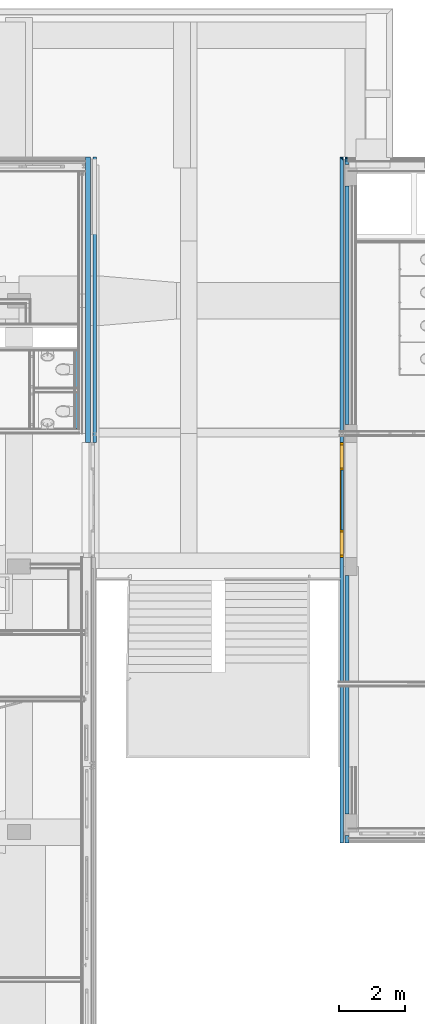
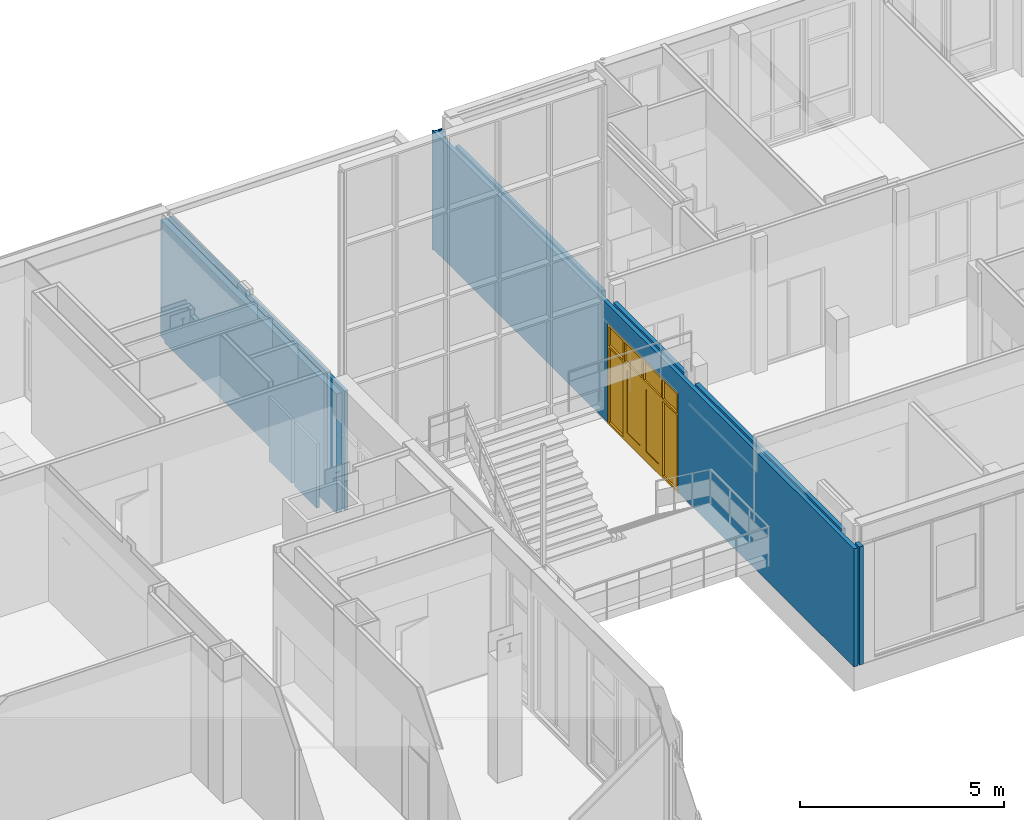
# One storey, part 49 of 94: 5 building element parts, 1 door, 1 opening, 3 elements without a shape of their own.
"""IFC2X3 building model written with IfcOpenShell, lengths in millimetres."""

from ifc_helpers import new_model, entity, si_unit, converted_unit, derived_unit, money_unit, direction, frame, origin_with_axes, place, context, subcontext, project, spatial, open_shell, faceted_brep, surface_model, material, type_object, element, fill, aggregate, save


model = new_model("IFC2X3")

# Units and contexts
model_context = context("Model", 3, precision=0.01, world=origin_with_axes(), true_north=direction((0.0, 1.0)))
body_context = subcontext(model_context, "Body", "Model", "MODEL_VIEW")
ifc_project = project(units=[si_unit("LENGTHUNIT", "METRE", prefix="MILLI"), si_unit("AREAUNIT", "SQUARE_METRE"), si_unit("VOLUMEUNIT", "CUBIC_METRE"), converted_unit("PLANEANGLEUNIT", "DEGREE", entity("IfcPlaneAngleMeasure", 0.0174532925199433), si_unit("PLANEANGLEUNIT", "RADIAN"), dimensions=[0, 0, 0, 0, 0, 0, 0]), money_unit("EUR"), converted_unit("TIMEUNIT", "Year", entity("IfcTimeMeasure", 31557600.0), si_unit("TIMEUNIT", "SECOND"), dimensions=[0, 0, 1, 0, 0, 0, 0]), si_unit("MASSUNIT", "GRAM", prefix="KILO"), si_unit("THERMODYNAMICTEMPERATUREUNIT", "DEGREE_CELSIUS"), si_unit("LUMINOUSINTENSITYUNIT", "LUMEN"), si_unit("ENERGYUNIT", "JOULE", prefix="MEGA"), derived_unit("THERMALCONDUCTANCEUNIT", [(si_unit("POWERUNIT", "WATT"), 1), (si_unit("LENGTHUNIT", "METRE"), -1), (si_unit("THERMODYNAMICTEMPERATUREUNIT", "KELVIN"), -1)]), derived_unit("SPECIFICHEATCAPACITYUNIT", [(si_unit("ENERGYUNIT", "JOULE"), 1), (si_unit("MASSUNIT", "GRAM", prefix="KILO"), -1), (si_unit("THERMODYNAMICTEMPERATUREUNIT", "KELVIN"), -1)]), derived_unit("MASSDENSITYUNIT", [(si_unit("MASSUNIT", "GRAM", prefix="KILO"), 1), (si_unit("VOLUMEUNIT", "CUBIC_METRE"), -1)])], contexts=[model_context])

# Site, building, storey
site_placement = place(None, origin_with_axes())
site = spatial("IfcSite", under=ifc_project, at=site_placement, Name="<site naam>", CompositionType="ELEMENT")
building_placement = place(site_placement, origin_with_axes())
building = spatial("IfcBuilding", under=site, at=building_placement, Name="<Naam gebouw>", CompositionType="ELEMENT")
storey_placement = place(building_placement, frame((0.0, 0.0, 4250.0), z_axis=(0.0, 0.0, 1.0), x_axis=(1.0, 0.0, 0.0)))
storey = spatial("IfcBuildingStorey", under=building, at=storey_placement, Name="01 1e verdieping", CompositionType="ELEMENT", Elevation=4250.0)

# Door
door_style = type_object("IfcDoorStyle", Name="D2 bl zl2 27", ConstructionType="NOTDEFINED", OperationType="USERDEFINED", ParameterTakesPrecedence=False, Sizeable=False)
wall_2_placement = place(storey_placement, frame((11665.00000000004, 20324.99999758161, 0.0), z_axis=(0.0, 0.0, 1.0), x_axis=(0.0, -1.0, 0.0)))
opening_placement = place(wall_2_placement, frame((10324.99999758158, 0.0, 0.0), z_axis=(0.0, 0.0, 1.0), x_axis=(1.0, 0.0, 0.0)))
door_placement = place(opening_placement, frame((1725.0, 0.0, 0.0), z_axis=(0.0, 0.0, 1.0), x_axis=(-1.0, 0.0, 0.0)))
door = element("IfcDoor", 1, at=door_placement, inside=storey, type_object=door_style, Name="21_BI-D-06_305", ObjectType="DOOR", OverallHeight=3000.0, OverallWidth=3450.0, context=body_context, shape_type="SurfaceModel", body=[
    faceted_brep([(3449.999999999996, 0.0, 0.0), (3449.999999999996, -113.9999999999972, 0.0), (3382.999999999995, -113.9999999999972, 0.0), (3382.999999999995, 0.0, 0.0), (3449.999999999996, 0.0, 2933.0), (3449.999999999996, -113.9999999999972, 2933.0), (3382.999999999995, -113.9999999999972, 2933.0), (3382.999999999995, -113.9999999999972, 2367.0), (3382.999999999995, -113.9999999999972, 2300.0), (3382.999999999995, -113.9999999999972, 67.00000000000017), (3382.999999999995, 0.0, 67.00000000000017), (3382.999999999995, 0.0, 2300.0), (3382.999999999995, 0.0, 2367.0), (3382.999999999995, 0.0, 2933.0)], [[[0, 1, 2, 3]], [[4, 5, 1, 0]], [[1, 5, 6, 7, 8, 9, 2]], [[3, 2, 9, 10]], [[0, 3, 10, 11, 12, 13, 4]], [[13, 6, 5, 4]], [[12, 7, 6, 13]], [[11, 8, 7, 12]], [[10, 9, 8, 11]]]),
    faceted_brep([(2624.999999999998, -39.99999999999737, 2317.0), (2624.999999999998, -39.99999999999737, 2300.0), (2624.999999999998, -113.9999999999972, 2300.0), (2624.999999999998, -113.9999999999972, 2367.0), (2624.999999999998, 0.0, 2367.0), (2624.999999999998, 0.0, 2317.0), (2641.999999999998, -39.99999999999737, 2317.0), (2641.999999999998, -39.99999999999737, 0.0), (2624.999999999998, -39.99999999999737, 0.0), (2624.999999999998, -113.9999999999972, 0.0), (2691.999999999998, -113.9999999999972, 0.0), (2691.999999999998, -113.9999999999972, 67.00000000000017), (2691.999999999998, -113.9999999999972, 2300.0), (2691.999999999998, -113.9999999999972, 2367.0), (2691.999999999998, -113.9999999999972, 2933.0), (2624.999999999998, -113.9999999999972, 2933.0), (2624.999999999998, 0.0, 2933.0), (2641.999999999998, 0.0, 2317.0), (2691.999999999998, 0.0, 2933.0), (2691.999999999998, 0.0, 2367.0), (2691.999999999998, 0.0, 2300.0), (2691.999999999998, 0.0, 67.00000000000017), (2691.999999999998, 0.0, 0.0), (2641.999999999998, 0.0, 0.0)], [[[0, 1, 2, 3, 4, 5]], [[0, 6, 7, 8, 1]], [[8, 9, 2, 1]], [[2, 9, 10, 11, 12, 13, 14, 15, 3]], [[16, 4, 3, 15]], [[17, 5, 4, 16, 18, 19, 20, 21, 22, 23]], [[5, 17, 6, 0]], [[23, 7, 6, 17]], [[7, 23, 22, 10, 9, 8]], [[22, 21, 11, 10]], [[21, 20, 12, 11]], [[20, 19, 13, 12]], [[19, 18, 14, 13]], [[18, 16, 15, 14]]]),
    faceted_brep([(3382.999999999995, 0.0, 67.00000000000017), (3382.999999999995, -113.9999999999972, 67.00000000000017), (3382.999999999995, -113.9999999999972, 0.0), (3382.999999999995, 0.0, 0.0), (2691.999999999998, 0.0, 67.00000000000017), (2691.999999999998, -113.9999999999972, 67.00000000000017), (2691.999999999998, -113.9999999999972, 0.0), (2691.999999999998, 0.0, 0.0)], [[[0, 1, 2, 3]], [[4, 5, 1, 0]], [[1, 5, 6, 2]], [[3, 2, 6, 7]], [[0, 3, 7, 4]], [[7, 6, 5, 4]]]),
    faceted_brep([(0.0, 0.0, 0.0), (0.0, -113.9999999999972, 0.0), (0.0, -113.9999999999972, 2933.0), (0.0, 0.0, 2933.0), (67.00000000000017, 0.0, 0.0), (67.00000000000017, -113.9999999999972, 0.0), (67.00000000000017, -113.9999999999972, 67.00000000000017), (67.00000000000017, -113.9999999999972, 2300.0), (67.00000000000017, -113.9999999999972, 2367.0), (67.00000000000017, -113.9999999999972, 2933.0), (67.00000000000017, 0.0, 2933.0), (67.00000000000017, 0.0, 2367.0), (67.00000000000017, 0.0, 2300.0), (67.00000000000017, 0.0, 67.00000000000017)], [[[0, 1, 2, 3]], [[4, 5, 1, 0]], [[1, 5, 6, 7, 8, 9, 2]], [[3, 2, 9, 10]], [[0, 3, 10, 11, 12, 13, 4]], [[13, 6, 5, 4]], [[12, 7, 6, 13]], [[11, 8, 7, 12]], [[10, 9, 8, 11]]]),
    faceted_brep([(807.9999999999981, 0.0, 2317.0), (807.9999999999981, 0.0, 0.0), (757.9999999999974, 0.0, 0.0), (757.9999999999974, 0.0, 67.00000000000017), (757.9999999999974, 0.0, 2300.0), (757.9999999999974, 0.0, 2367.0), (757.9999999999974, 0.0, 2933.0), (824.9999999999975, 0.0, 2933.0), (824.9999999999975, 0.0, 2367.0), (824.9999999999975, 0.0, 2317.0), (807.9999999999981, -39.99999999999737, 2317.0), (807.9999999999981, -39.99999999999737, 0.0), (824.9999999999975, -39.99999999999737, 0.0), (824.9999999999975, -113.9999999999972, 0.0), (757.9999999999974, -113.9999999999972, 0.0), (757.9999999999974, -113.9999999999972, 67.00000000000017), (757.9999999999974, -113.9999999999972, 2300.0), (757.9999999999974, -113.9999999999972, 2367.0), (757.9999999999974, -113.999999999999, 2933.0), (824.9999999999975, -113.999999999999, 2933.0), (824.9999999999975, -113.9999999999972, 2367.0), (824.9999999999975, -39.99999999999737, 2317.0), (824.9999999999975, -113.9999999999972, 2300.0), (824.9999999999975, -39.99999999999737, 2300.0)], [[[0, 1, 2, 3, 4, 5, 6, 7, 8, 9]], [[0, 10, 11, 1]], [[11, 12, 13, 14, 2, 1]], [[3, 2, 14, 15]], [[4, 3, 15, 16]], [[5, 4, 16, 17]], [[6, 5, 17, 18]], [[7, 6, 18, 19]], [[8, 7, 19, 20]], [[21, 9, 8, 20, 22, 23]], [[9, 21, 10, 0]], [[11, 10, 21, 23, 12]], [[23, 22, 13, 12]], [[15, 14, 13, 22, 20, 19, 18, 17, 16]]]),
    faceted_brep([(757.9999999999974, 0.0, 67.00000000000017), (757.9999999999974, -113.9999999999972, 67.00000000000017), (757.9999999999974, -113.9999999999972, 0.0), (757.9999999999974, 0.0, 0.0), (67.00000000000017, 0.0, 67.00000000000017), (67.00000000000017, -113.9999999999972, 67.00000000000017), (67.00000000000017, -113.9999999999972, 0.0), (67.00000000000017, 0.0, 0.0)], [[[0, 1, 2, 3]], [[4, 5, 1, 0]], [[1, 5, 6, 2]], [[3, 2, 6, 7]], [[0, 3, 7, 4]], [[7, 6, 5, 4]]]),
    faceted_brep([(3449.999999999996, 0.0, 3000.0), (3449.999999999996, -113.9999999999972, 3000.0), (3449.999999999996, -113.9999999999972, 2933.0), (3449.999999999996, 0.0, 2933.0), (0.0, 0.0, 3000.0), (0.0, -113.9999999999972, 3000.0), (0.0, -113.9999999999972, 2933.0), (67.00000000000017, -113.9999999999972, 2933.0), (757.9999999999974, -113.999999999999, 2933.0), (824.9999999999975, -113.999999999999, 2933.0), (2624.999999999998, -113.9999999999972, 2933.0), (2691.999999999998, -113.9999999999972, 2933.0), (3382.999999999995, -113.9999999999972, 2933.0), (3382.999999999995, 0.0, 2933.0), (2691.999999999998, 0.0, 2933.0), (2624.999999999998, 0.0, 2933.0), (824.9999999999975, 0.0, 2933.0), (757.9999999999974, 0.0, 2933.0), (67.00000000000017, 0.0, 2933.0), (0.0, 0.0, 2933.0)], [[[0, 1, 2, 3]], [[4, 5, 1, 0]], [[1, 5, 6, 7, 8, 9, 10, 11, 12, 2]], [[3, 2, 12, 13]], [[0, 3, 13, 14, 15, 16, 17, 18, 19, 4]], [[19, 6, 5, 4]], [[18, 7, 6, 19]], [[17, 8, 7, 18]], [[16, 9, 8, 17]], [[15, 10, 9, 16]], [[14, 11, 10, 15]], [[13, 12, 11, 14]]]),
    faceted_brep([(3382.999999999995, 0.0, 2300.0), (3382.999999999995, -113.9999999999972, 2300.0), (2691.999999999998, -113.9999999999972, 2300.0), (2691.999999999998, 0.0, 2300.0), (3382.999999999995, 0.0, 2367.0), (3382.999999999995, -113.9999999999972, 2367.0), (2691.999999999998, -113.9999999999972, 2367.0), (2691.999999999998, 0.0, 2367.0)], [[[0, 1, 2, 3]], [[4, 5, 1, 0]], [[1, 5, 6, 2]], [[3, 2, 6, 7]], [[0, 3, 7, 4]], [[7, 6, 5, 4]]]),
    faceted_brep([(67.00000000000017, 0.0, 2367.0), (67.00000000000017, -113.9999999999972, 2367.0), (757.9999999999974, -113.9999999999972, 2367.0), (757.9999999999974, 0.0, 2367.0), (67.00000000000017, 0.0, 2300.0), (67.00000000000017, -113.9999999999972, 2300.0), (757.9999999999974, -113.9999999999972, 2300.0), (757.9999999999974, 0.0, 2300.0)], [[[0, 1, 2, 3]], [[4, 5, 1, 0]], [[1, 5, 6, 2]], [[3, 2, 6, 7]], [[0, 3, 7, 4]], [[7, 6, 5, 4]]]),
    faceted_brep([(824.9999999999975, -39.99999999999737, 2317.0), (824.9999999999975, -39.99999999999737, 2300.0), (824.9999999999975, -113.9999999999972, 2300.0), (824.9999999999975, -113.9999999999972, 2367.0), (824.9999999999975, 0.0, 2367.0), (824.9999999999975, 0.0, 2317.0), (2624.999999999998, -39.99999999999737, 2317.0), (2624.999999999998, -39.99999999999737, 2300.0), (2624.999999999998, -113.9999999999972, 2300.0), (2624.999999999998, -113.9999999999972, 2367.0), (2624.999999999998, 0.0, 2367.0), (2624.999999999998, 0.0, 2317.0)], [[[0, 1, 2, 3, 4, 5]], [[0, 6, 7, 1]], [[7, 8, 2, 1]], [[8, 9, 3, 2]], [[10, 4, 3, 9]], [[5, 4, 10, 11]], [[5, 11, 6, 0]], [[6, 11, 10, 9, 8, 7]]]),
    faceted_brep([(807.9999999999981, 0.0, 299.9999999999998), (957.9999999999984, 0.0, 299.9999999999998), (957.9999999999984, -39.99999999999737, 299.9999999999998), (807.9999999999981, -39.99999999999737, 299.9999999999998), (807.9999999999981, 0.0, 2167.0), (957.9999999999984, 0.0, 2167.0), (957.9999999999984, -39.99999999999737, 2167.0), (807.9999999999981, -39.99999999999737, 2167.0)], [[[0, 1, 2, 3]], [[0, 4, 5, 1]], [[1, 5, 6, 2]], [[3, 2, 6, 7]], [[4, 0, 3, 7]], [[5, 4, 7, 6]]]),
    faceted_brep([(1724.999999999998, 0.0, 299.9999999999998), (1724.999999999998, 0.0, 2167.0), (1724.999999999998, -39.99999999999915, 2167.0), (1724.999999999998, -39.99999999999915, 299.9999999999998), (1574.999999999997, 0.0, 299.9999999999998), (1574.999999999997, 0.0, 2167.0), (1574.999999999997, -39.99999999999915, 2167.0), (1574.999999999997, -39.99999999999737, 299.9999999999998)], [[[0, 1, 2, 3]], [[0, 4, 5, 1]], [[1, 5, 6, 2]], [[3, 2, 6, 7]], [[4, 0, 3, 7]], [[5, 4, 7, 6]]]),
    faceted_brep([(807.9999999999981, 0.0, 0.0), (1724.999999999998, 0.0, 0.0), (1724.999999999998, -39.99999999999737, 0.0), (807.9999999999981, -39.99999999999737, 0.0), (807.9999999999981, 0.0, 299.9999999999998), (957.9999999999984, 0.0, 299.9999999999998), (1574.999999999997, 0.0, 299.9999999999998), (1724.999999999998, 0.0, 299.9999999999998), (1724.999999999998, -39.99999999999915, 299.9999999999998), (1574.999999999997, -39.99999999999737, 299.9999999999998), (957.9999999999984, -39.99999999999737, 299.9999999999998), (807.9999999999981, -39.99999999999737, 299.9999999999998)], [[[0, 1, 2, 3]], [[0, 4, 5, 6, 7, 1]], [[1, 7, 8, 2]], [[3, 2, 8, 9, 10, 11]], [[4, 0, 3, 11]], [[5, 4, 11, 10]], [[6, 5, 10, 9]], [[7, 6, 9, 8]]]),
    faceted_brep([(807.9999999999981, 0.0, 2317.0), (807.9999999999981, 0.0, 2167.0), (807.9999999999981, -39.99999999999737, 2167.0), (807.9999999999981, -39.99999999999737, 2317.0), (1724.999999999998, 0.0, 2317.0), (1724.999999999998, 0.0, 2167.0), (1574.999999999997, 0.0, 2167.0), (957.9999999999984, 0.0, 2167.0), (957.9999999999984, -39.99999999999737, 2167.0), (1574.999999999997, -39.99999999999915, 2167.0), (1724.999999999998, -39.99999999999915, 2167.0), (1724.999999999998, -39.99999999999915, 2317.0)], [[[0, 1, 2, 3]], [[0, 4, 5, 6, 7, 1]], [[1, 7, 8, 2]], [[3, 2, 8, 9, 10, 11]], [[4, 0, 3, 11]], [[5, 4, 11, 10]], [[6, 5, 10, 9]], [[7, 6, 9, 8]]]),
    surface_model("IfcShellBasedSurfaceModel", [(957.9999999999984, -13.99999999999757, 299.9999999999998), (957.9999999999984, -13.99999999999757, 2167.0), (1574.999999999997, -13.99999999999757, 2167.0), (1574.999999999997, -13.99999999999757, 299.9999999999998)], [open_shell([[[0, 1, 2, 3]]])]),
    surface_model("IfcShellBasedSurfaceModel", [(957.9999999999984, -25.99999999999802, 299.9999999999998), (1574.999999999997, -25.99999999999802, 299.9999999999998), (1574.999999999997, -25.99999999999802, 2167.0), (957.9999999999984, -25.99999999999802, 2167.0)], [open_shell([[[0, 1, 2, 3]]])]),
    faceted_brep([(2641.999999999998, 0.0, 299.9999999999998), (2641.999999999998, -39.99999999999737, 299.9999999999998), (2491.999999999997, -39.99999999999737, 299.9999999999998), (2491.999999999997, 0.0, 299.9999999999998), (2641.999999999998, 0.0, 2167.0), (2641.999999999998, -39.99999999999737, 2167.0), (2491.999999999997, -39.99999999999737, 2167.0), (2491.999999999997, 0.0, 2167.0)], [[[0, 1, 2, 3]], [[4, 5, 1, 0]], [[1, 5, 6, 2]], [[3, 2, 6, 7]], [[0, 3, 7, 4]], [[7, 6, 5, 4]]]),
    faceted_brep([(1724.999999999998, 0.0, 299.9999999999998), (1724.999999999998, -39.99999999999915, 299.9999999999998), (1724.999999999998, -39.99999999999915, 2167.0), (1724.999999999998, 0.0, 2167.0), (1874.999999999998, 0.0, 299.9999999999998), (1874.999999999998, -39.99999999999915, 299.9999999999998), (1874.999999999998, -39.99999999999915, 2167.0), (1874.999999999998, 0.0, 2167.0)], [[[0, 1, 2, 3]], [[4, 5, 1, 0]], [[1, 5, 6, 2]], [[3, 2, 6, 7]], [[0, 3, 7, 4]], [[7, 6, 5, 4]]]),
    faceted_brep([(2641.999999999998, 0.0, 0.0), (2641.999999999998, -39.99999999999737, 0.0), (1724.999999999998, -39.99999999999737, 0.0), (1724.999999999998, 0.0, 0.0), (2641.999999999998, 0.0, 299.9999999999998), (2641.999999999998, -39.99999999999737, 299.9999999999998), (2491.999999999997, -39.99999999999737, 299.9999999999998), (1874.999999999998, -39.99999999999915, 299.9999999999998), (1724.999999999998, -39.99999999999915, 299.9999999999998), (1724.999999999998, 0.0, 299.9999999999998), (1874.999999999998, 0.0, 299.9999999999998), (2491.999999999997, 0.0, 299.9999999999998)], [[[0, 1, 2, 3]], [[4, 5, 1, 0]], [[1, 5, 6, 7, 8, 2]], [[3, 2, 8, 9]], [[0, 3, 9, 10, 11, 4]], [[11, 6, 5, 4]], [[10, 7, 6, 11]], [[9, 8, 7, 10]]]),
    faceted_brep([(2641.999999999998, 0.0, 2317.0), (2641.999999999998, -39.99999999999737, 2317.0), (2641.999999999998, -39.99999999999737, 2167.0), (2641.999999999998, 0.0, 2167.0), (1724.999999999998, 0.0, 2317.0), (1724.999999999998, -39.99999999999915, 2317.0), (1724.999999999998, -39.99999999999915, 2167.0), (1874.999999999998, -39.99999999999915, 2167.0), (2491.999999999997, -39.99999999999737, 2167.0), (2491.999999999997, 0.0, 2167.0), (1874.999999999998, 0.0, 2167.0), (1724.999999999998, 0.0, 2167.0)], [[[0, 1, 2, 3]], [[4, 5, 1, 0]], [[1, 5, 6, 7, 8, 2]], [[3, 2, 8, 9]], [[0, 3, 9, 10, 11, 4]], [[11, 6, 5, 4]], [[10, 7, 6, 11]], [[9, 8, 7, 10]]]),
    surface_model("IfcShellBasedSurfaceModel", [(2491.999999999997, -13.99999999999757, 299.9999999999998), (1874.999999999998, -13.99999999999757, 299.9999999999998), (1874.999999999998, -13.99999999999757, 2167.0), (2491.999999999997, -13.99999999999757, 2167.0)], [open_shell([[[0, 1, 2, 3]]])]),
    surface_model("IfcShellBasedSurfaceModel", [(2491.999999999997, -25.99999999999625, 299.9999999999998), (2491.999999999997, -25.99999999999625, 2167.0), (1874.999999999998, -25.99999999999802, 2167.0), (1874.999999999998, -25.99999999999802, 299.9999999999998)], [open_shell([[[0, 1, 2, 3]]])]),
    surface_model("IfcShellBasedSurfaceModel", [(3382.999999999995, -59.99999999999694, 2367.0), (3382.999999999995, -59.99999999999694, 2933.0), (2691.999999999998, -59.99999999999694, 2933.0), (2691.999999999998, -59.99999999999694, 2367.0)], [open_shell([[[0, 1, 2, 3]]])]),
    surface_model("IfcShellBasedSurfaceModel", [(3382.999999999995, -47.99999999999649, 2367.0), (2691.999999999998, -47.99999999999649, 2367.0), (2691.999999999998, -47.99999999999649, 2933.0), (3382.999999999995, -47.99999999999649, 2933.0)], [open_shell([[[0, 1, 2, 3]]])]),
    surface_model("IfcShellBasedSurfaceModel", [(1758.499999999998, -59.99999999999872, 2367.0), (2624.999999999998, -59.99999999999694, 2367.0), (2624.999999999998, -59.99999999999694, 2933.0), (1758.499999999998, -59.99999999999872, 2933.0)], [open_shell([[[0, 1, 2, 3]]])]),
    surface_model("IfcShellBasedSurfaceModel", [(1758.499999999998, -47.99999999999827, 2367.0), (1758.499999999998, -47.99999999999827, 2933.0), (2624.999999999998, -47.99999999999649, 2933.0), (2624.999999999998, -47.99999999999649, 2367.0)], [open_shell([[[0, 1, 2, 3]]])]),
    surface_model("IfcShellBasedSurfaceModel", [(824.9999999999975, -59.99999999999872, 2367.0), (1691.499999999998, -59.99999999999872, 2367.0), (1691.499999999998, -59.99999999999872, 2933.0), (824.9999999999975, -59.99999999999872, 2933.0)], [open_shell([[[0, 1, 2, 3]]])]),
    surface_model("IfcShellBasedSurfaceModel", [(824.9999999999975, -47.99999999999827, 2367.0), (824.9999999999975, -47.99999999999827, 2933.0), (1691.499999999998, -47.99999999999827, 2933.0), (1691.499999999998, -47.99999999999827, 2367.0)], [open_shell([[[0, 1, 2, 3]]])]),
    faceted_brep([(1758.499999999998, -113.999999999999, 2367.0), (1691.499999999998, -113.999999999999, 2367.0), (1691.499999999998, 0.0, 2367.0), (1758.499999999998, 0.0, 2367.0), (1758.499999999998, -113.999999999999, 2933.0), (1691.499999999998, -113.999999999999, 2933.0), (1691.499999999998, 0.0, 2933.0), (1758.499999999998, 0.0, 2933.0)], [[[0, 1, 2, 3]], [[0, 4, 5, 1]], [[1, 5, 6, 2]], [[3, 2, 6, 7]], [[4, 0, 3, 7]], [[5, 4, 7, 6]]]),
    surface_model("IfcShellBasedSurfaceModel", [(757.9999999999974, -59.99999999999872, 2367.0), (757.9999999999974, -59.99999999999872, 2933.0), (67.00000000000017, -59.99999999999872, 2933.0), (67.00000000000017, -59.99999999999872, 2367.0)], [open_shell([[[0, 1, 2, 3]]])]),
    surface_model("IfcShellBasedSurfaceModel", [(757.9999999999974, -47.99999999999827, 2367.0), (67.00000000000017, -47.99999999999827, 2367.0), (67.00000000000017, -47.99999999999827, 2933.0), (757.9999999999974, -47.99999999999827, 2933.0)], [open_shell([[[0, 1, 2, 3]]])]),
    surface_model("IfcShellBasedSurfaceModel", [(3382.999999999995, -59.99999999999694, 67.00000000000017), (3382.999999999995, -59.99999999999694, 2300.000000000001), (2691.999999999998, -59.99999999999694, 2300.000000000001), (2691.999999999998, -59.99999999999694, 67.00000000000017)], [open_shell([[[0, 1, 2, 3]]])]),
    surface_model("IfcShellBasedSurfaceModel", [(3382.999999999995, -47.99999999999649, 67.00000000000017), (2691.999999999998, -47.99999999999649, 67.00000000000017), (2691.999999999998, -47.99999999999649, 2300.000000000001), (3382.999999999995, -47.99999999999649, 2300.000000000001)], [open_shell([[[0, 1, 2, 3]]])]),
    surface_model("IfcShellBasedSurfaceModel", [(757.9999999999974, -59.99999999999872, 67.00000000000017), (757.9999999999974, -59.99999999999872, 2300.000000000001), (67.00000000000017, -59.99999999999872, 2300.000000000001), (67.00000000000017, -59.99999999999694, 67.00000000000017)], [open_shell([[[0, 1, 2, 3]]])]),
    surface_model("IfcShellBasedSurfaceModel", [(757.9999999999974, -47.99999999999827, 67.00000000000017), (67.00000000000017, -47.99999999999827, 67.00000000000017), (67.00000000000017, -47.99999999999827, 2300.000000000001), (757.9999999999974, -47.99999999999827, 2300.000000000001)], [open_shell([[[0, 1, 2, 3]]])]),
])

# Wall, building element parts
wall_type_1 = type_object("IfcWallType", Name="metselwerk-lucht-kalkzandsteen 335 335", PredefinedType="NOTDEFINED")
wall_1_placement = place(storey_placement, frame((4335.04446815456, 20324.99999757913, 0.0), z_axis=(0.0, 0.0, 1.0), x_axis=(0.0, -1.0, 0.0)))
wall_1 = element("IfcWall", 2, at=wall_1_placement, inside=storey, type_object=wall_type_1, Name="21_Binnenwand_metselwerk-lucht-kalkzandsteen")
ifc_material_1 = material(Name="kalkzandsteen C")
building_element_part_1_placement = place(wall_1_placement, origin_with_axes())
building_element_part_1 = element("IfcBuildingElementPart", 3, at=building_element_part_1_placement, material=ifc_material_1, Name="kalkzandsteen C", context=body_context, shape_type="Brep", body=[
    faceted_brep([(0.0, -204.119711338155, 70.00015497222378), (0.0, -334.9999999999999, 70.00015497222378), (0.0, -334.9999999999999, 3560.000003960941), (0.0, -174.9999999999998, 3560.000003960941), (0.0, -174.9999999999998, 0.0), (0.0, -204.119711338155, 0.0), (189.9999975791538, -204.119711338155, 70.00015497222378), (189.9999975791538, -334.9999999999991, 70.00015497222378), (189.9999975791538, -334.9999999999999, 0.0), (8599.999997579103, -334.9999999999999, 0.0), (8599.999997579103, -334.9999999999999, 3560.000003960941), (8599.999997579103, -174.9999999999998, 3560.000003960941), (8599.999997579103, -174.9999999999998, 0.0), (189.9999975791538, -204.119711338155, 0.0)], [[[0, 1, 2, 3, 4, 5]], [[1, 0, 6, 7]], [[7, 8, 9, 10, 2, 1]], [[2, 10, 11, 3]], [[3, 11, 12, 4]], [[13, 5, 4, 12, 9, 8]], [[0, 5, 13, 6]], [[13, 8, 7, 6]], [[11, 10, 9, 12]]]),
])
ifc_material_2 = material(Name="metselwerk AFW")
building_element_part_2_placement = place(wall_1_placement, origin_with_axes())
building_element_part_2 = element("IfcBuildingElementPart", 4, at=building_element_part_2_placement, material=ifc_material_2, Name="metselwerk AFW", context=body_context, shape_type="Brep", body=[
    faceted_brep([(0.0, -109.9999999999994, 3560.000003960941), (8599.999997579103, -110.0000000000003, 3560.000003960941), (8599.999997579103, 0.0, 3560.000003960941), (0.0, 0.0, 3560.000003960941), (0.0, -110.0000000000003, 0.0), (8599.999997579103, -110.0000000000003, 0.0), (8599.999997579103, 0.0, 0.0), (0.0, 0.0, 0.0)], [[[0, 1, 2, 3]], [[4, 5, 1, 0]], [[2, 1, 5, 6]], [[3, 2, 6, 7]], [[4, 0, 3, 7]], [[7, 6, 5, 4]]]),
])
aggregate(wall_1, [building_element_part_1, building_element_part_2])

# Wall, opening
wall_type_2 = type_object("IfcWallType", Name="metselwerk-lucht-metselwerk 270 270", PredefinedType="NOTDEFINED")
wall_2 = element("IfcWall", 5, at=wall_2_placement, inside=storey, type_object=wall_type_2, Name="21_Binnenwand_metselwerk-lucht-metselwerk")
opening = element("IfcOpeningElement", 6, at=opening_placement, cuts=wall_2, Name="21_BI-D-06_305", context=body_context, shape_type="Brep", body=[
    faceted_brep([(1724.999999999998, 271.0000000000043, 3000.0), (1724.999999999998, 271.0000000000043, 0.0), (-1724.999999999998, 271.0000000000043, 0.0), (-1724.999999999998, 271.0000000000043, 3000.0), (1724.999999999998, -1.000000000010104, 3000.0), (1724.999999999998, -1.000000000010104, 0.0), (-1724.999999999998, -1.000000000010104, 0.0), (-1724.999999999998, -1.000000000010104, 3000.0)], [[[0, 1, 2, 3]], [[4, 5, 1, 0]], [[5, 6, 2, 1]], [[6, 7, 3, 2]], [[7, 4, 0, 3]], [[6, 5, 4, 7]]]),
])

fill(opening, door)

# Building element part
building_element_part_3_placement = place(wall_2_placement, origin_with_axes())
building_element_part_3 = element("IfcBuildingElementPart", 7, at=building_element_part_3_placement, material=ifc_material_2, Name="metselwerk AFW", context=body_context, shape_type="Brep", body=[
    faceted_brep([(109.9999975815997, 109.9999999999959, 3510.000062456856), (109.9999975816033, 109.9999999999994, 3560.000003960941), (20650.01688911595, 109.9999999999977, 3560.000003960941), (20650.01688911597, 109.9999999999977, 29.99993418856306), (59.99999758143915, 109.9999999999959, 29.99993418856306), (59.99999758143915, 109.9999999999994, 0.0), (0.0, 109.9999999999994, 0.0), (2.486899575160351e-09, 110.000000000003, 3510.000062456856), (30.00000230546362, 109.9999999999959, 3510.000062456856), (30.00000230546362, 109.9999999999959, 3539.999985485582), (59.99999328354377, 109.9999999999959, 3539.999985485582), (59.99999328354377, 109.9999999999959, 3510.000062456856), (30.00000230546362, 30.00000472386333, 3539.999985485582), (30.00000230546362, 30.00000472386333, 3510.000062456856), (2.486899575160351e-09, 2.420879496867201e-06, 3510.000062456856), (2.486899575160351e-09, 2.420879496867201e-06, 3560.000003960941), (59.99999328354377, 59.99999570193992, 3510.000062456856), (59.99999328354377, 59.99999570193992, 3539.999985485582), (20650.01688911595, 0.0, 3560.000003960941), (20650.01688911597, 2.420895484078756e-06, 29.99993418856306), (59.99999758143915, 2.420893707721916e-06, 29.99993418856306), (59.99999758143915, 2.420893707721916e-06, 0.0), (0.0, 0.0, 0.0)], [[[0, 1, 2, 3, 4, 5, 6, 7, 8, 9, 10, 11]], [[12, 13, 14, 15, 1, 0, 16, 17]], [[15, 18, 2, 1]], [[3, 2, 18, 19]], [[3, 19, 20, 4]], [[4, 20, 21, 5]], [[21, 22, 6, 5]], [[7, 6, 22, 14]], [[7, 14, 13, 8]], [[8, 13, 12, 9]], [[9, 12, 17, 10]], [[10, 17, 16, 11]], [[0, 11, 16]], [[14, 22, 21, 20, 19, 18, 15]]]),
])

ifc_material_3 = material(Name="metselwerk C")
building_element_part_4_placement = place(wall_2_placement, origin_with_axes())
building_element_part_4 = element("IfcBuildingElementPart", 8, at=building_element_part_4_placement, material=ifc_material_3, Name="metselwerk C", context=body_context, shape_type="Brep", body=[
    faceted_brep([(20530.01689122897, 270.0000000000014, 59.99993649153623), (20490.01688438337, 270.0000000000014, 59.99993649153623), (20490.01688438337, 270.0000000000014, 0.0), (20432.67451745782, 269.9999527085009, 0.0), (20432.67451745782, 269.9999527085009, 3560.000003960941), (20650.01688911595, 270.0000000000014, 3560.000003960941), (20650.01688911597, 270.0000000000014, 29.99993418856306), (20530.01689122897, 270.0000000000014, 29.99993418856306), (20530.01689122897, 159.9999999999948, 59.99993649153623), (20490.01688438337, 160.0000071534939, 59.99993649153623), (20490.01688438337, 160.0000071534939, 0.0), (20432.67451745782, 159.9999520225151, 0.0), (20432.67451745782, 159.9999520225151, 3560.000003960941), (20650.01688911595, 160.0000000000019, 3560.000003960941), (20650.01688911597, 159.9999999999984, 29.99993418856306), (20530.01689122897, 159.9999999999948, 29.99993418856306)], [[[0, 1, 2, 3, 4, 5, 6, 7]], [[1, 0, 8, 9]], [[2, 1, 9, 10]], [[3, 2, 10, 11]], [[4, 3, 11, 12]], [[12, 13, 5, 4]], [[14, 6, 5, 13]], [[7, 6, 14, 15]], [[0, 7, 15, 8]], [[15, 14, 13, 12, 11, 10, 9, 8]]]),
    faceted_brep([(12600.00004365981, 269.9999527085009, 3560.000003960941), (12600.00004365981, 159.9999520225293, 3560.000003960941), (19775.00004365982, 159.9999520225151, 3560.000003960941), (19775.00004365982, 269.9999527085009, 3560.000003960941), (12600.00004365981, 269.9999527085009, 0.0), (12600.00004365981, 159.9999520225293, 0.0), (19775.00004365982, 159.9999520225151, 0.0), (19775.00004365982, 269.9999527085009, 0.0)], [[[0, 1, 2, 3]], [[4, 5, 1, 0]], [[1, 5, 6, 2]], [[2, 6, 7, 3]], [[4, 0, 3, 7]], [[5, 4, 7, 6]]]),
    faceted_brep([(119.9999978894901, 269.9999999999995, 3560.000003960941), (119.9999978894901, 160.0000000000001, 3560.000003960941), (217.3255014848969, 159.9999520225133, 3560.000003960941), (217.3255014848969, 269.9999527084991, 3560.000003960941), (119.9999978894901, 269.9999999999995, 3510.000062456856), (119.9999978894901, 159.9999999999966, 3510.000062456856), (2.486899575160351e-09, 160.0000000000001, 3510.000062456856), (0.0, 160.0000000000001, 0.0), (217.3255014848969, 159.9999520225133, 0.0), (59.99999328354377, 159.9999999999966, 3510.000062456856), (59.99999328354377, 159.9999999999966, 3539.999985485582), (30.00000230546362, 159.9999999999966, 3539.999985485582), (30.00000230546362, 159.9999999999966, 3510.000062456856), (217.3255014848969, 269.9999527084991, 0.0), (0.0, 269.9999999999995, 0.0), (2.486899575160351e-09, 269.9999999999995, 3510.000062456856), (30.00000230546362, 269.9999999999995, 3510.000062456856), (30.00000230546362, 269.9999999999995, 3539.999985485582), (59.99999328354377, 269.9999999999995, 3539.999985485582), (59.99999328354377, 269.9999999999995, 3510.000062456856)], [[[0, 1, 2, 3]], [[0, 4, 5, 1]], [[6, 7, 8, 2, 1, 5, 9, 10, 11, 12]], [[2, 8, 13, 3]], [[4, 0, 3, 13, 14, 15, 16, 17, 18, 19]], [[19, 9, 5, 4]], [[15, 14, 7, 6]], [[7, 14, 13, 8]], [[18, 10, 9, 19]], [[17, 11, 10, 18]], [[16, 12, 11, 17]], [[15, 6, 12, 16]]]),
    faceted_brep([(874.9999975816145, 159.9999520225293, 3560.000003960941), (8050.000043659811, 159.9999520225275, 3560.000003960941), (8050.000043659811, 269.9999527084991, 3560.000003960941), (874.9999975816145, 269.9999527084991, 3560.000003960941), (874.9999975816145, 159.9999520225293, 0.0), (8050.000043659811, 159.9999520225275, 0.0), (8050.000043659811, 269.9999527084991, 0.0), (874.9999975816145, 269.9999527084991, 0.0)], [[[0, 1, 2, 3]], [[4, 5, 1, 0]], [[5, 6, 2, 1]], [[3, 2, 6, 7]], [[4, 0, 3, 7]], [[7, 6, 5, 4]]]),
    faceted_brep([(8600.000043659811, 159.9999520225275, 3560.000003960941), (12050.00004365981, 159.9999520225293, 3560.000003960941), (12050.00004365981, 269.9999527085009, 3560.000003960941), (8600.000043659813, 269.9999527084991, 3560.000003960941), (8600.000043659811, 159.9999520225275, 0.0), (12050.00004365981, 159.9999520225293, 0.0), (12050.00004365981, 269.9999527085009, 0.0), (8600.000043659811, 269.9999527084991, 0.0)], [[[0, 1, 2, 3]], [[4, 5, 1, 0]], [[5, 6, 2, 1]], [[3, 2, 6, 7]], [[4, 0, 3, 7]], [[7, 6, 5, 4]]]),
])

aggregate(wall_2, [building_element_part_3, building_element_part_4])

# Wall, building element part
wall_type_3 = type_object("IfcWallType", Name="MS-03 GF 100 HTT DGS V/100.2 100", PredefinedType="NOTDEFINED")
wall_3_placement = place(storey_placement, frame((3665.467699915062, 12000.00000000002, 0.0), z_axis=(0.0, 0.0, 1.0), x_axis=(0.0, 1.0, 0.0)))
wall_3 = element("IfcWall", 9, at=wall_3_placement, inside=storey, type_object=wall_type_3, Name="22_Binnenwand_MS-03")
ifc_material_4 = material(Name="isolatie_steenwol LSW")
building_element_part_5_placement = place(wall_3_placement, origin_with_axes())
building_element_part_5 = element("IfcBuildingElementPart", 10, at=building_element_part_5_placement, material=ifc_material_4, Name="isolatie_steenwol LSW", context=body_context, shape_type="Brep", body=[
    faceted_brep([(2487.499969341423, -25.00000000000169, 1914.999999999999), (1374.999969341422, -25.00000000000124, 1914.999999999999), (1374.999969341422, -100.0000000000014, 1914.999999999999), (2487.499969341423, -100.0000000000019, 1914.999999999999), (2487.499969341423, -25.00000000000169, 0.0), (1374.999969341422, -25.00000000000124, 0.0), (1374.999969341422, -100.0000000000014, 0.0), (2487.499969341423, -100.0000000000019, 0.0)], [[[0, 1, 2, 3]], [[4, 5, 1, 0]], [[2, 1, 5, 6]], [[3, 2, 6, 7]], [[3, 7, 4, 0]], [[7, 6, 5, 4]]]),
    faceted_brep([(1224.999969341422, -25.0000000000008, 1914.999999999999), (150.0000000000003, -25.00000000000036, 1914.999999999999), (150.0000000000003, -100.0000000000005, 1914.999999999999), (1224.999969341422, -100.000000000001, 1914.999999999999), (1224.999969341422, -25.0000000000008, 0.0), (150.0000000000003, -25.00000000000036, 0.0), (150.0000000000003, -100.0000000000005, 0.0), (1224.999969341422, -100.000000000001, 0.0)], [[[0, 1, 2, 3]], [[4, 5, 1, 0]], [[2, 1, 5, 6]], [[3, 2, 6, 7]], [[3, 7, 4, 0]], [[7, 6, 5, 4]]]),
])
aggregate(wall_3, [building_element_part_5])

save(model, "model.ifc")
